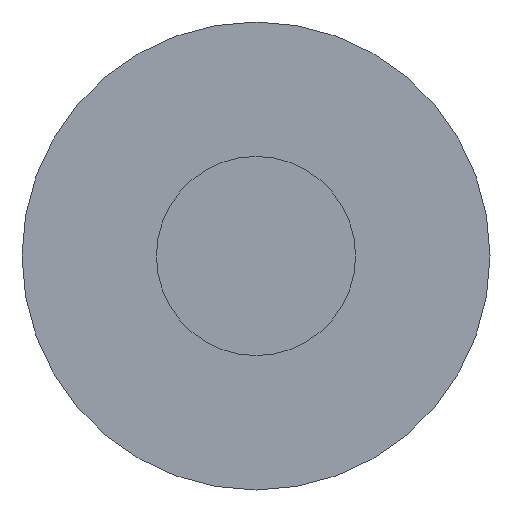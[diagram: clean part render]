
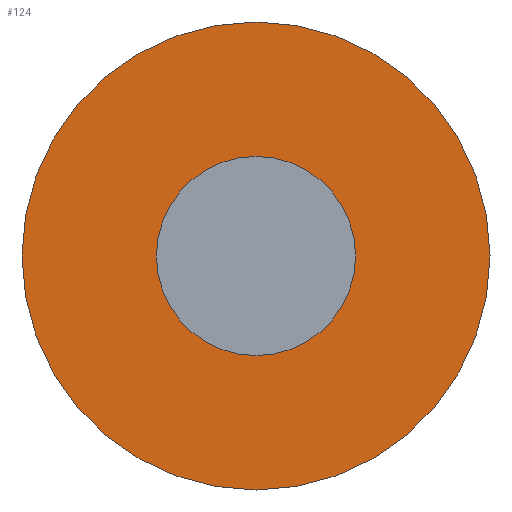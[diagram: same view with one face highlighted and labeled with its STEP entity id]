
A CAD part, front view. The second image highlights one B-rep face of the part: STEP entity #124.
In plain terms, the highlighted planar face has unit normal (0, -1, 0).
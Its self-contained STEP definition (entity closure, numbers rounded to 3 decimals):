
#93=CARTESIAN_POINT('',(8.231,16.623,2.));
#94=VERTEX_POINT('',#93);
#95=CARTESIAN_POINT('',(8.231,16.623,0.));
#96=DIRECTION('',(0.0,1.0,0.0));
#97=DIRECTION('',(-1.0,0.0,0.0));
#98=AXIS2_PLACEMENT_3D('',#95,#96,#97);
#99=CIRCLE('',#98,2.);
#100=EDGE_CURVE('',#94,#94,#99,.F.);
#105=CARTESIAN_POINT('',(3.061,16.623,5.17));
#106=DIRECTION('',(0.0,-1.0,0.0));
#107=DIRECTION('',(0.0,0.0,-1.0));
#108=AXIS2_PLACEMENT_3D('',#105,#106,#107);
#109=PLANE('',#108);
#110=CARTESIAN_POINT('',(8.231,16.623,4.7));
#111=VERTEX_POINT('',#110);
#112=CARTESIAN_POINT('',(8.231,16.623,0.));
#113=DIRECTION('',(0.0,1.0,0.0));
#114=DIRECTION('',(-1.0,0.0,0.0));
#115=AXIS2_PLACEMENT_3D('',#112,#113,#114);
#116=CIRCLE('',#115,4.7);
#117=EDGE_CURVE('',#111,#111,#116,.F.);
#118=ORIENTED_EDGE('',*,*,#117,.T.);
#119=EDGE_LOOP('',(#118));
#120=FACE_OUTER_BOUND('',#119,.T.);
#121=ORIENTED_EDGE('',*,*,#100,.F.);
#122=EDGE_LOOP('',(#121));
#123=FACE_BOUND('',#122,.T.);
#124=ADVANCED_FACE('',(#120,#123),#109,.T.);
